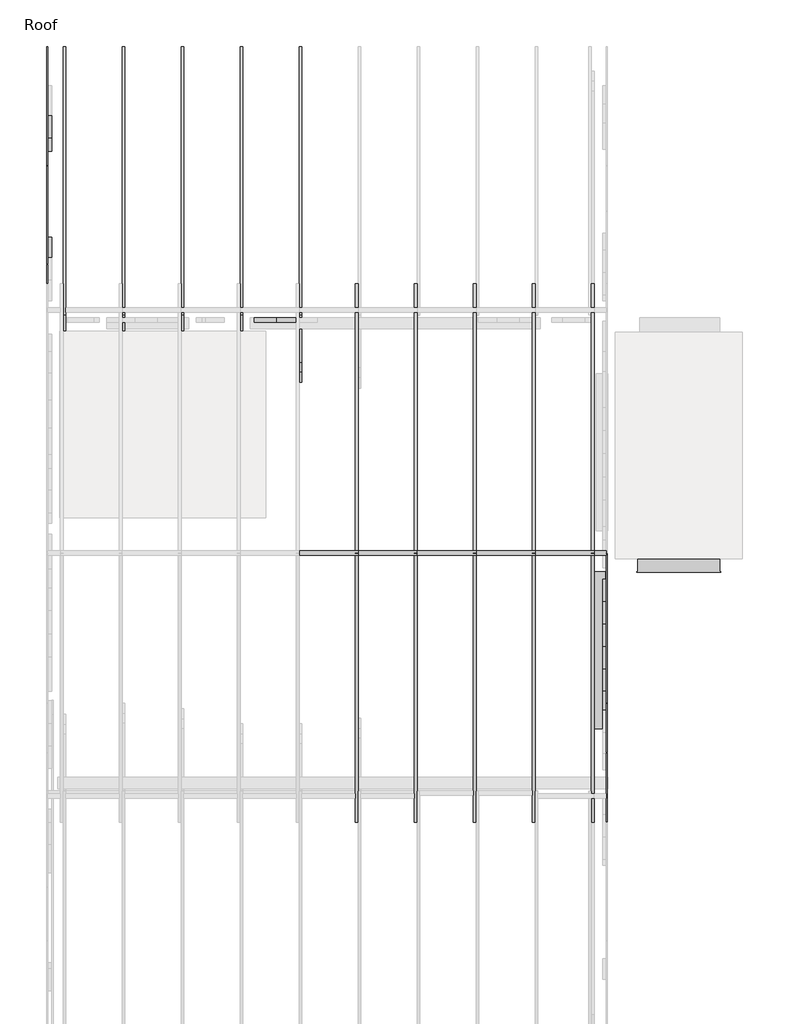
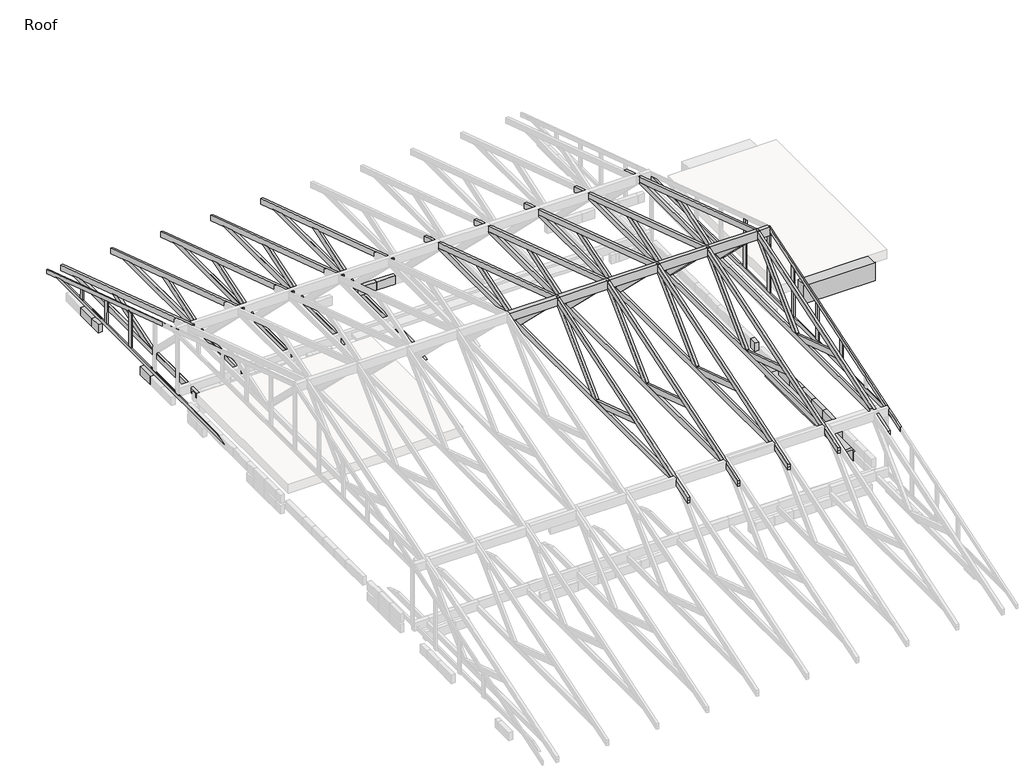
# One storey, part 4 of 5: 83 beams.
"""IFC4 building model written with IfcOpenShell, lengths in millimetres."""

from ifc_helpers import new_model, si_unit, frame, origin, place, context, project, spatial, polyline, outline, extrude, faceted_brep, transform, mapped, element, save
from components import beam_3d1db731, beam_175f67f2, beam_d3007124, beam_de9683ee, beam_a02e4526, beam_1caa885b, beam_21fbbdfc, dimension_lumber_2x8_b9bcc632, experttrusspart_2_x_4_5d1fd198, experttrusspart_2_x_4_7bcd8695, experttrusspart_2_x_4_906307f6, beam_a2527db5, beam_34389604, beam_5d155f78, beam_9d6aa0d6, beam_a4d90c35, beam_871d04bb, beam_51b55d0f, beam_ea55bc13

model = new_model("IFC4")

# Units and contexts
model_context = context("Model", 3, world=origin())
ifc_project = project(units=[si_unit("LENGTHUNIT", "METRE", prefix="MILLI")], contexts=[model_context])

# Site, building, storey
site = spatial("IfcSite", under=ifc_project)
building = spatial("IfcBuilding", under=site)
storey = spatial("IfcBuildingStorey", under=building, Name="Roof", Elevation=4267.2)

# Beams
placement = place(None, origin())
element("IfcBeam", 1, ObjectType="BraceBeam : 1\" x 3\"", at=placement, inside=storey, context=model_context, shape_type="Brep", body=[
    faceted_brep([(-11513.8040766, -15078.6302742, 2347.4378096), (-11513.8040766, -18729.8906497, 3539.1686266), (-11532.8540766, -18729.8906497, 3539.1686266), (-11532.8540766, -15078.6302742, 2347.4378096), (-11532.8540766, -15078.6302742, 2380.8361793), (-11532.8540766, -18729.8906497, 3572.5669964), (-11532.8540766, -18729.8906497, 3605.9653661), (-11532.8540766, -15078.6302742, 2414.2345491), (-11513.8040766, -18729.8906497, 3605.9653661), (-11513.8040766, -15078.6302742, 2414.2345491), (-11513.8040766, -15078.6302742, 2380.8361793), (-11513.8040766, -18729.8906497, 3572.5669964)], [[[0, 1, 2, 3]], [[4, 3, 2, 5, 6, 7]], [[7, 6, 8, 9]], [[10, 9, 8, 11, 1, 0]], [[9, 10, 0, 3, 4, 7]], [[6, 5, 2, 1, 11, 8]]]),
])
element("IfcBeam", 2, ObjectType="BraceBeam : 1\" x 3\"", at=placement, inside=storey, context=model_context, shape_type="Brep", body=[
    faceted_brep([(-11513.8040766, -15331.9224123, 2438.4), (-11513.8040766, -20010.7211148, 2438.4), (-11532.8540766, -20010.7211148, 2438.4), (-11532.8540766, -15331.9224123, 2438.4), (-11532.8540766, -15429.199008, 2470.15), (-11532.8540766, -19913.4445191, 2470.15), (-11532.8540766, -19816.1679233, 2501.9), (-11532.8540766, -15526.4756038, 2501.9), (-11513.8040766, -19816.1679233, 2501.9), (-11513.8040766, -15526.4756038, 2501.9), (-11513.8040766, -15429.199008, 2470.15), (-11513.8040766, -19913.4445191, 2470.15)], [[[0, 1, 2, 3]], [[4, 3, 2, 5, 6, 7]], [[7, 6, 8, 9]], [[10, 9, 8, 11, 1, 0]], [[9, 10, 0, 3, 4, 7]], [[6, 5, 2, 1, 11, 8]]]),
    faceted_brep([(-11513.8040766, -15331.9224123, 2438.4), (-11513.8040766, -18760.0431336, 2438.4), (-11532.8540766, -18760.0431336, 2438.4), (-11532.8540766, -15331.9224123, 2438.4), (-11513.8040766, -15429.199008, 2470.15), (-11513.8040766, -15526.4756038, 2501.9), (-11513.8040766, -18760.0431336, 2501.9), (-11532.8540766, -15429.199008, 2470.15), (-11532.8540766, -18760.0431336, 2501.9), (-11532.8540766, -15526.4756038, 2501.9)], [[[0, 1, 2, 3]], [[4, 5, 6, 1, 0]], [[7, 3, 2, 8, 9]], [[5, 4, 0, 3, 7, 9]], [[9, 8, 6, 5]], [[2, 1, 6, 8]]]),
])
element("IfcBeam", 3, ObjectType="BraceBeam : 1\" x 3\"", at=placement, inside=storey, context=model_context, shape_type="Brep", body=[
    faceted_brep([(-3931.9040766, -25617.9763369, 3399.7852354), (-3931.9040766, -21960.3763369, 4593.5852354), (-3912.8540766, -21960.3763369, 4593.5852354), (-3912.8540766, -25617.9763369, 3399.7852354), (-3912.8540766, -25617.9763369, 3433.1836052), (-3912.8540766, -21960.3763369, 4626.9836052), (-3912.8540766, -21960.3763369, 4660.381975), (-3912.8540766, -25617.9763369, 3466.581975), (-3931.9040766, -21960.3763369, 4660.381975), (-3931.9040766, -25617.9763369, 3466.581975), (-3931.9040766, -25617.9763369, 3433.1836052), (-3931.9040766, -21960.3763369, 4626.9836052)], [[[0, 1, 2, 3]], [[4, 3, 2, 5, 6, 7]], [[7, 6, 8, 9]], [[10, 9, 8, 11, 1, 0]], [[9, 10, 0, 3, 4, 7]], [[6, 5, 2, 1, 11, 8]]]),
])
element("IfcBeam", 4, ObjectType="BraceBeam : 1\" x 3\"", at=placement, inside=storey, context=model_context, shape_type="Brep", body=[
    faceted_brep([(-3931.9040766, -25364.6841988, 3482.456975), (-3931.9040766, -18556.068475, 3482.456975), (-3912.8540766, -18556.068475, 3482.456975), (-3912.8540766, -25364.6841988, 3482.456975), (-3912.8540766, -25267.4076031, 3514.206975), (-3912.8540766, -18653.3450708, 3514.206975), (-3912.8540766, -18750.6216665, 3545.956975), (-3912.8540766, -25170.1310073, 3545.956975), (-3931.9040766, -18750.6216665, 3545.956975), (-3931.9040766, -25170.1310073, 3545.956975), (-3931.9040766, -25267.4076031, 3514.206975), (-3931.9040766, -18653.3450708, 3514.206975)], [[[0, 1, 2, 3]], [[4, 3, 2, 5, 6, 7]], [[7, 6, 8, 9]], [[10, 9, 8, 11, 1, 0]], [[9, 10, 0, 3, 4, 7]], [[6, 5, 2, 1, 11, 8]]]),
])
beam_shape = beam_3d1db731(model_context)
element("IfcBeam", 5, ObjectType="BraceBeam : 1\" x 3\"", at=placement, inside=storey, context=model_context, shape_type="MappedRepresentation", body=[
    mapped(beam_shape, transform((-3922.3790766, -22627.5788952, 3962.3751938), x_axis=(0.0, 0.009073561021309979, 0.9999588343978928), y_axis=(-1.0, 0.0, 0.0), z_axis=(0.0, -0.9999588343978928, 0.009073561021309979))),
])
element("IfcBeam", 6, ObjectType="BraceBeam : 1\" x 3\"", at=placement, inside=storey, context=model_context, shape_type="MappedRepresentation", body=[
    mapped(beam_shape, transform((-3922.3790766, -21293.1737787, 3962.3751938), x_axis=(0.0, -0.009073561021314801, 0.9999588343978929), y_axis=(1.0, 0.0, 0.0), z_axis=(0.0, 0.9999588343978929, 0.009073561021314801))),
])
beam_2_shape = beam_175f67f2(model_context)
element("IfcBeam", 7, ObjectType="BraceBeam : 1\" x 3\"", at=placement, inside=storey, context=model_context, shape_type="MappedRepresentation", body=[
    mapped(beam_2_shape, transform((-3922.3790766, -23299.7521017, 3852.5327331), x_axis=(0.0, 0.009347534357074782, 0.9999563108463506), y_axis=(-1.0, 0.0, 0.0), z_axis=(0.0, -0.9999563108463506, 0.009347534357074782))),
])
beam_3_shape = beam_d3007124(model_context)
element("IfcBeam", 8, ObjectType="BraceBeam : 1\" x 3\"", at=placement, inside=storey, context=model_context, shape_type="MappedRepresentation", body=[
    mapped(beam_3_shape, transform((-3922.3790766, -23971.9253083, 3742.6902724), x_axis=(0.0, 0.009884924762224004, 0.9999511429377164), y_axis=(-1.0, 0.0, 0.0), z_axis=(0.0, -0.9999511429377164, 0.009884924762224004))),
])
beam_4_shape = beam_de9683ee(model_context)
element("IfcBeam", 9, ObjectType="BraceBeam : 1\" x 3\"", at=placement, inside=storey, context=model_context, shape_type="MappedRepresentation", body=[
    mapped(beam_4_shape, transform((-11523.3290766, -17393.6846971, 2803.2959412), x_axis=(0.0, 2.1499352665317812e-05, 0.999999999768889), y_axis=(-1.0, -1.5118550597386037e-10, 0.0), z_axis=(1.5118550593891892e-10, -0.999999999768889, 2.1499352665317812e-05))),
])
beam_5_shape = beam_a02e4526(model_context)
element("IfcBeam", 10, ObjectType="BraceBeam : 1\" x 3\"", at=placement, inside=storey, context=model_context, shape_type="MappedRepresentation", body=[
    mapped(beam_5_shape, transform((-11523.3290766, -16724.6813027, 2694.488072), x_axis=(0.0, -0.010067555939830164, 0.9999493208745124), y_axis=(1.0, 0.0, 0.0), z_axis=(0.0, 0.9999493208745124, 0.010067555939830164))),
])
beam_6_shape = beam_1caa885b(model_context)
element("IfcBeam", 11, ObjectType="BraceBeam : 1\" x 3\"", at=placement, inside=storey, context=model_context, shape_type="MappedRepresentation", body=[
    mapped(beam_6_shape, transform((-11523.3290766, -16052.5080961, 2584.6456114), x_axis=(0.0, -0.011830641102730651, 0.9999300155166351), y_axis=(1.0, 0.0, 0.0), z_axis=(0.0, 0.9999300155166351, 0.011830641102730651))),
])
beam_7_shape = beam_21fbbdfc(model_context)
element("IfcBeam", 12, ObjectType="BraceBeam : 1\" x 3\"", at=placement, inside=storey, context=model_context, shape_type="MappedRepresentation", body=[
    mapped(beam_7_shape, transform((-3922.3790766, -21959.8191245, 4103.1697536), x_axis=(0.0, -0.000999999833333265, 0.9999995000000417), y_axis=(1.0, -1.4638300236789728e-12, 0.0), z_axis=(1.463829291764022e-12, 0.9999995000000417, 0.0009999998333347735))),
])
element("IfcBeam", 13, ObjectType="Concrete-Rectangular Beam : 12 x 8", at=placement, inside=storey, context=model_context, shape_type="SweptSolid", body=[
    extrude(outline(polyline([(-2371.10478, -22219.1384775), (-3514.10478, -22219.1384775), (-3514.10478, -22212.7884775), (-3502.0090766, -22212.7884775), (-3502.0090766, -22015.9384775), (-2385.6790766, -22015.9384775), (-2385.6790766, -22212.7884775), (-2371.10478, -22212.7884775), (-2371.10478, -22219.1384775)])), frame((0.0, 0.0, 3352.8), z_axis=(0.0, 0.0, 1.0), x_axis=(1.0, 0.0, 0.0)), (0.0, 0.0, 1.0), 304.8),
])
dimension_lumber_2x8_shape = dimension_lumber_2x8_b9bcc632(model_context)
element("IfcBeam", 14, ObjectType="Dimension Lumber : 2x8", at=placement, inside=storey, context=model_context, shape_type="MappedRepresentation", body=[
    mapped(dimension_lumber_2x8_shape, transform((-3935.0790766, -23256.1525987, 2235.2), x_axis=(0.0, -1.0, 0.0), y_axis=(1.0, 0.0, 0.0), z_axis=(0.0, 0.0, 1.0))),
])
element("IfcBeam", 15, ObjectType="ExpertTrussPart : 2 x 4", at=placement, inside=storey, context=model_context, shape_type="SweptSolid", body=[
    extrude(outline(polyline([(-21793.4464104, 4512.3824664), (-20848.8530293, 3587.468114), (-20850.5374103, 3571.356975), (-20959.4672099, 3571.356975), (-21960.3763369, 4551.4138285), (-21960.3763369, 4566.8665396), (-21793.4464104, 4512.3824664)])), frame((-7337.8324099, 0.0, 0.0), z_axis=(1.0, 0.0, 0.0), x_axis=(0.0, 1.0, 0.0)), (0.0, 0.0, 1.0), 38.1),
])
element("IfcBeam", 16, ObjectType="ExpertTrussPart : 2 x 4", at=placement, inside=storey, context=model_context, shape_type="SweptSolid", body=[
    extrude(outline(polyline([(-19883.9561718, 3889.1460691), (-19812.3273277, 3865.7672102), (-19740.6984836, 3842.3883514), (-20571.0924881, 3571.356975), (-20850.5374103, 3571.356975), (-20850.2876203, 3573.7462213), (-19883.9561718, 3889.1460691)])), frame((-7337.8324099, 0.0, 0.0), z_axis=(1.0, 0.0, 0.0), x_axis=(0.0, 1.0, 0.0)), (0.0, 0.0, 1.0), 38.1),
])
element("IfcBeam", 17, ObjectType="ExpertTrussPart : 2 x 4", at=placement, inside=storey, context=model_context, shape_type="SweptSolid", body=[
    extrude(outline(polyline([(-22127.3062634, 4512.3824664), (-21960.3763369, 4566.8665396), (-21960.3763369, 4551.4138285), (-22961.2854639, 3571.356975), (-23070.2152636, 3571.356975), (-23071.8996445, 3587.468114), (-22127.3062634, 4512.3824664)])), frame((-7337.8324099, 0.0, 0.0), z_axis=(1.0, 0.0, 0.0), x_axis=(0.0, 1.0, 0.0)), (0.0, 0.0, 1.0), 38.1),
])
element("IfcBeam", 18, ObjectType="ExpertTrussPart : 2 x 4", at=placement, inside=storey, context=model_context, shape_type="SweptSolid", body=[
    extrude(outline(polyline([(-24036.796502, 3889.1460691), (-23070.4650535, 3573.7462213), (-23070.2152636, 3571.356975), (-23349.6601858, 3571.356975), (-24180.0541902, 3842.3883514), (-24108.4253461, 3865.7672102), (-24036.796502, 3889.1460691)])), frame((-7337.8324099, 0.0, 0.0), z_axis=(1.0, 0.0, 0.0), x_axis=(0.0, 1.0, 0.0)), (0.0, 0.0, 1.0), 38.1),
])
element("IfcBeam", 19, ObjectType="ExpertTrussPart : 2 x 4", at=placement, inside=storey, context=model_context, shape_type="SweptSolid", body=[
    extrude(outline(polyline([(-21793.4464104, 4512.3824664), (-20848.8530293, 3587.468114), (-20850.5374103, 3571.356975), (-20959.4672099, 3571.356975), (-21960.3763369, 4551.4138285), (-21960.3763369, 4566.8665396), (-21793.4464104, 4512.3824664)])), frame((-6536.0390766, 0.0, 0.0), z_axis=(1.0, 0.0, 0.0), x_axis=(0.0, 1.0, 0.0)), (0.0, 0.0, 1.0), 38.1),
])
element("IfcBeam", 20, ObjectType="ExpertTrussPart : 2 x 4", at=placement, inside=storey, context=model_context, shape_type="SweptSolid", body=[
    extrude(outline(polyline([(-19883.9561718, 3889.1460691), (-19812.3273277, 3865.7672102), (-19740.6984836, 3842.3883514), (-20571.0924881, 3571.356975), (-20850.5374103, 3571.356975), (-20850.2876203, 3573.7462213), (-19883.9561718, 3889.1460691)])), frame((-6536.0390766, 0.0, 0.0), z_axis=(1.0, 0.0, 0.0), x_axis=(0.0, 1.0, 0.0)), (0.0, 0.0, 1.0), 38.1),
])
element("IfcBeam", 21, ObjectType="ExpertTrussPart : 2 x 4", at=placement, inside=storey, context=model_context, shape_type="SweptSolid", body=[
    extrude(outline(polyline([(-22127.3062634, 4512.3824664), (-21960.3763369, 4566.8665396), (-21960.3763369, 4551.4138285), (-22961.2854639, 3571.356975), (-23070.2152636, 3571.356975), (-23071.8996445, 3587.468114), (-22127.3062634, 4512.3824664)])), frame((-6536.0390766, 0.0, 0.0), z_axis=(1.0, 0.0, 0.0), x_axis=(0.0, 1.0, 0.0)), (0.0, 0.0, 1.0), 38.1),
])
element("IfcBeam", 22, ObjectType="ExpertTrussPart : 2 x 4", at=placement, inside=storey, context=model_context, shape_type="SweptSolid", body=[
    extrude(outline(polyline([(-24036.796502, 3889.1460691), (-23070.4650535, 3573.7462213), (-23070.2152636, 3571.356975), (-23349.6601858, 3571.356975), (-24180.0541902, 3842.3883514), (-24108.4253461, 3865.7672102), (-24036.796502, 3889.1460691)])), frame((-6536.0390766, 0.0, 0.0), z_axis=(1.0, 0.0, 0.0), x_axis=(0.0, 1.0, 0.0)), (0.0, 0.0, 1.0), 38.1),
])
element("IfcBeam", 23, ObjectType="ExpertTrussPart : 2 x 4", at=placement, inside=storey, context=model_context, shape_type="SweptSolid", body=[
    extrude(outline(polyline([(-21960.3763369, 4660.381975), (-21960.3763369, 4613.6242573), (-21960.3763369, 4566.8665396), (-25617.9763369, 3373.0665396), (-25617.9763369, 3419.8242573), (-25617.9763369, 3466.581975), (-21960.3763369, 4660.381975)])), frame((-5734.2457433, 0.0, 0.0), z_axis=(1.0, 0.0, 0.0), x_axis=(0.0, 1.0, 0.0)), (0.0, 0.0, 1.0), 38.1),
])
element("IfcBeam", 24, ObjectType="ExpertTrussPart : 2 x 4", at=placement, inside=storey, context=model_context, shape_type="SweptSolid", body=[
    extrude(outline(polyline([(-21793.4464104, 4512.3824664), (-20848.8530293, 3587.468114), (-20850.5374103, 3571.356975), (-20959.4672099, 3571.356975), (-21960.3763369, 4551.4138285), (-21960.3763369, 4566.8665396), (-21793.4464104, 4512.3824664)])), frame((-5734.2457433, 0.0, 0.0), z_axis=(1.0, 0.0, 0.0), x_axis=(0.0, 1.0, 0.0)), (0.0, 0.0, 1.0), 38.1),
])
element("IfcBeam", 25, ObjectType="ExpertTrussPart : 2 x 4", at=placement, inside=storey, context=model_context, shape_type="SweptSolid", body=[
    extrude(outline(polyline([(-19883.9561718, 3889.1460691), (-19812.3273277, 3865.7672102), (-19740.6984836, 3842.3883514), (-20571.0924881, 3571.356975), (-20850.5374103, 3571.356975), (-20850.2876203, 3573.7462213), (-19883.9561718, 3889.1460691)])), frame((-5734.2457433, 0.0, 0.0), z_axis=(1.0, 0.0, 0.0), x_axis=(0.0, 1.0, 0.0)), (0.0, 0.0, 1.0), 38.1),
])
element("IfcBeam", 26, ObjectType="ExpertTrussPart : 2 x 4", at=placement, inside=storey, context=model_context, shape_type="SweptSolid", body=[
    extrude(outline(polyline([(-22127.3062634, 4512.3824664), (-21960.3763369, 4566.8665396), (-21960.3763369, 4551.4138285), (-22961.2854639, 3571.356975), (-23070.2152636, 3571.356975), (-23071.8996445, 3587.468114), (-22127.3062634, 4512.3824664)])), frame((-5734.2457433, 0.0, 0.0), z_axis=(1.0, 0.0, 0.0), x_axis=(0.0, 1.0, 0.0)), (0.0, 0.0, 1.0), 38.1),
])
element("IfcBeam", 27, ObjectType="ExpertTrussPart : 2 x 4", at=placement, inside=storey, context=model_context, shape_type="SweptSolid", body=[
    extrude(outline(polyline([(-24036.796502, 3889.1460691), (-23070.4650535, 3573.7462213), (-23070.2152636, 3571.356975), (-23349.6601858, 3571.356975), (-24180.0541902, 3842.3883514), (-24108.4253461, 3865.7672102), (-24036.796502, 3889.1460691)])), frame((-5734.2457433, 0.0, 0.0), z_axis=(1.0, 0.0, 0.0), x_axis=(0.0, 1.0, 0.0)), (0.0, 0.0, 1.0), 38.1),
])
element("IfcBeam", 28, ObjectType="ExpertTrussPart : 2 x 4", at=placement, inside=storey, context=model_context, shape_type="SweptSolid", body=[
    extrude(outline(polyline([(-21793.4464104, 4512.3824664), (-20848.8530293, 3587.468114), (-20850.5374103, 3571.356975), (-20959.4672099, 3571.356975), (-21960.3763369, 4551.4138285), (-21960.3763369, 4566.8665396), (-21793.4464104, 4512.3824664)])), frame((-4932.4524099, 0.0, 0.0), z_axis=(1.0, 0.0, 0.0), x_axis=(0.0, 1.0, 0.0)), (0.0, 0.0, 1.0), 38.1),
])
element("IfcBeam", 29, ObjectType="ExpertTrussPart : 2 x 4", at=placement, inside=storey, context=model_context, shape_type="SweptSolid", body=[
    extrude(outline(polyline([(-19883.9561718, 3889.1460691), (-19812.3273277, 3865.7672102), (-19740.6984836, 3842.3883514), (-20571.0924881, 3571.356975), (-20850.5374103, 3571.356975), (-20850.2876203, 3573.7462213), (-19883.9561718, 3889.1460691)])), frame((-4932.4524099, 0.0, 0.0), z_axis=(1.0, 0.0, 0.0), x_axis=(0.0, 1.0, 0.0)), (0.0, 0.0, 1.0), 38.1),
])
element("IfcBeam", 30, ObjectType="ExpertTrussPart : 2 x 4", at=placement, inside=storey, context=model_context, shape_type="SweptSolid", body=[
    extrude(outline(polyline([(-22127.3062634, 4512.3824664), (-21960.3763369, 4566.8665396), (-21960.3763369, 4551.4138285), (-22961.2854639, 3571.356975), (-23070.2152636, 3571.356975), (-23071.8996445, 3587.468114), (-22127.3062634, 4512.3824664)])), frame((-4932.4524099, 0.0, 0.0), z_axis=(1.0, 0.0, 0.0), x_axis=(0.0, 1.0, 0.0)), (0.0, 0.0, 1.0), 38.1),
])
element("IfcBeam", 31, ObjectType="ExpertTrussPart : 2 x 4", at=placement, inside=storey, context=model_context, shape_type="SweptSolid", body=[
    extrude(outline(polyline([(-24036.796502, 3889.1460691), (-23070.4650535, 3573.7462213), (-23070.2152636, 3571.356975), (-23349.6601858, 3571.356975), (-24180.0541902, 3842.3883514), (-24108.4253461, 3865.7672102), (-24036.796502, 3889.1460691)])), frame((-4932.4524099, 0.0, 0.0), z_axis=(1.0, 0.0, 0.0), x_axis=(0.0, 1.0, 0.0)), (0.0, 0.0, 1.0), 38.1),
])
element("IfcBeam", 32, ObjectType="ExpertTrussPart : 2 x 4", at=placement, inside=storey, context=model_context, shape_type="SweptSolid", body=[
    extrude(outline(polyline([(-19496.0685721, 2527.3), (-15686.1584165, 2527.3), (-15549.9711824, 2482.85), (-15413.7839484, 2438.4), (-19768.4430401, 2438.4), (-19632.2558061, 2482.85), (-19496.0685721, 2527.3)])), frame((-11308.6990766, 0.0, 0.0), z_axis=(1.0, 0.0, 0.0), x_axis=(0.0, 1.0, 0.0)), (0.0, 0.0, 1.0), 38.1),
    extrude(outline(polyline([(-18760.0431336, 2527.3), (-15686.1584165, 2527.3), (-15549.9711824, 2482.85), (-15413.7839484, 2438.4), (-18760.0431336, 2438.4), (-18760.0431336, 2527.3)])), frame((-11308.6990766, 0.0, 0.0), z_axis=(1.0, 0.0, 0.0), x_axis=(0.0, 1.0, 0.0)), (0.0, 0.0, 1.0), 38.1),
])
element("IfcBeam", 33, ObjectType="ExpertTrussPart : 2 x 4", at=placement, inside=storey, context=model_context, shape_type="SweptSolid", body=[
    extrude(outline(polyline([(-16659.8101091, 2845.0890941), (-16588.181265, 2821.7102353), (-16516.5524209, 2798.3313765), (-17346.9464253, 2527.3), (-17626.3913475, 2527.3), (-17626.1415576, 2529.6892463), (-16659.8101091, 2845.0890941)])), frame((-11308.6990766, 0.0, 0.0), z_axis=(1.0, 0.0, 0.0), x_axis=(0.0, 1.0, 0.0)), (0.0, 0.0, 1.0), 38.1),
])
element("IfcBeam", 34, ObjectType="ExpertTrussPart : 2 x 4", at=placement, inside=storey, context=model_context, shape_type="SweptSolid", body=[
    extrude(outline(polyline([(-19648.4685721, 2527.3), (-15686.1584165, 2527.3), (-15549.9711824, 2482.85), (-15413.7839484, 2438.4), (-19920.8430401, 2438.4), (-19784.6558061, 2482.85), (-19648.4685721, 2527.3)])), frame((-10506.9057433, 0.0, 0.0), z_axis=(1.0, 0.0, 0.0), x_axis=(0.0, 1.0, 0.0)), (0.0, 0.0, 1.0), 38.1),
    extrude(outline(polyline([(-18760.0431336, 2527.3), (-15686.1584165, 2527.3), (-15549.9711824, 2482.85), (-15413.7839484, 2438.4), (-18760.0431336, 2438.4), (-18760.0431336, 2527.3)])), frame((-10506.9057433, 0.0, 0.0), z_axis=(1.0, 0.0, 0.0), x_axis=(0.0, 1.0, 0.0)), (0.0, 0.0, 1.0), 38.1),
])
element("IfcBeam", 35, ObjectType="ExpertTrussPart : 2 x 4", at=placement, inside=storey, context=model_context, shape_type="SweptSolid", body=[
    extrude(outline(polyline([(-16659.8101091, 2845.0890941), (-16588.181265, 2821.7102353), (-16516.5524209, 2798.3313765), (-17346.9464253, 2527.3), (-17626.3913475, 2527.3), (-17626.1415576, 2529.6892463), (-16659.8101091, 2845.0890941)])), frame((-10506.9057433, 0.0, 0.0), z_axis=(1.0, 0.0, 0.0), x_axis=(0.0, 1.0, 0.0)), (0.0, 0.0, 1.0), 38.1),
])
element("IfcBeam", 36, ObjectType="ExpertTrussPart : 2 x 4", at=placement, inside=storey, context=model_context, shape_type="SweptSolid", body=[
    extrude(outline(polyline([(-19572.2685721, 2527.3), (-15686.1584165, 2527.3), (-15549.9711824, 2482.85), (-15413.7839484, 2438.4), (-19844.6430401, 2438.4), (-19708.4558061, 2482.85), (-19572.2685721, 2527.3)])), frame((-9705.1124099, 0.0, 0.0), z_axis=(1.0, 0.0, 0.0), x_axis=(0.0, 1.0, 0.0)), (0.0, 0.0, 1.0), 38.1),
    extrude(outline(polyline([(-18760.0431336, 2527.3), (-15686.1584165, 2527.3), (-15549.9711824, 2482.85), (-15413.7839484, 2438.4), (-18760.0431336, 2438.4), (-18760.0431336, 2527.3)])), frame((-9705.1124099, 0.0, 0.0), z_axis=(1.0, 0.0, 0.0), x_axis=(0.0, 1.0, 0.0)), (0.0, 0.0, 1.0), 38.1),
])
element("IfcBeam", 37, ObjectType="ExpertTrussPart : 2 x 4", at=placement, inside=storey, context=model_context, shape_type="SweptSolid", body=[
    extrude(outline(polyline([(-16659.8101091, 2845.0890941), (-16588.181265, 2821.7102353), (-16516.5524209, 2798.3313765), (-17346.9464253, 2527.3), (-17626.3913475, 2527.3), (-17626.1415576, 2529.6892463), (-16659.8101091, 2845.0890941)])), frame((-9705.1124099, 0.0, 0.0), z_axis=(1.0, 0.0, 0.0), x_axis=(0.0, 1.0, 0.0)), (0.0, 0.0, 1.0), 38.1),
])
element("IfcBeam", 38, ObjectType="ExpertTrussPart : 2 x 4", at=placement, inside=storey, context=model_context, shape_type="SweptSolid", body=[
    extrude(outline(polyline([(-16659.8101091, 2845.0890941), (-16588.181265, 2821.7102353), (-16516.5524209, 2798.3313765), (-17346.9464253, 2527.3), (-17626.3913475, 2527.3), (-17626.1415576, 2529.6892463), (-16659.8101091, 2845.0890941)])), frame((-8903.3190766, 0.0, 0.0), z_axis=(1.0, 0.0, 0.0), x_axis=(0.0, 1.0, 0.0)), (0.0, 0.0, 1.0), 38.1),
])
element("IfcBeam", 39, ObjectType="ExpertTrussPart : 2 x 4", at=placement, inside=storey, context=model_context, shape_type="SweptSolid", body=[
    extrude(outline(polyline([(-19369.0685721, 2527.3), (-15686.1584165, 2527.3), (-15549.9711824, 2482.85), (-15413.7839484, 2438.4), (-19641.4430401, 2438.4), (-19505.2558061, 2482.85), (-19369.0685721, 2527.3)])), frame((-8101.5257433, 0.0, 0.0), z_axis=(1.0, 0.0, 0.0), x_axis=(0.0, 1.0, 0.0)), (0.0, 0.0, 1.0), 38.1),
    extrude(outline(polyline([(-18760.0431336, 2527.3), (-15686.1584165, 2527.3), (-15549.9711824, 2482.85), (-15413.7839484, 2438.4), (-18760.0431336, 2438.4), (-18760.0431336, 2527.3)])), frame((-8101.5257433, 0.0, 0.0), z_axis=(1.0, 0.0, 0.0), x_axis=(0.0, 1.0, 0.0)), (0.0, 0.0, 1.0), 38.1),
])
element("IfcBeam", 40, ObjectType="ExpertTrussPart : 2 x 4", at=placement, inside=storey, context=model_context, shape_type="SweptSolid", body=[
    extrude(outline(polyline([(-16659.8101091, 2845.0890941), (-16588.181265, 2821.7102353), (-16516.5524209, 2798.3313765), (-17346.9464253, 2527.3), (-17626.3913475, 2527.3), (-17626.1415576, 2529.6892463), (-16659.8101091, 2845.0890941)])), frame((-8101.5257433, 0.0, 0.0), z_axis=(1.0, 0.0, 0.0), x_axis=(0.0, 1.0, 0.0)), (0.0, 0.0, 1.0), 38.1),
])
element("IfcBeam", 41, ObjectType="ExpertTrussPart : 2 x 4", at=placement, inside=storey, context=model_context, shape_type="SweptSolid", body=[
    extrude(outline(polyline([(-19369.0685721, 2527.3), (-15686.1584165, 2527.3), (-15549.9711824, 2482.85), (-15413.7839484, 2438.4), (-19641.4430401, 2438.4), (-19505.2558061, 2482.85), (-19369.0685721, 2527.3)])), frame((-8903.3190766, 0.0, 0.0), z_axis=(1.0, 0.0, 0.0), x_axis=(0.0, 1.0, 0.0)), (0.0, 0.0, 1.0), 38.1),
    extrude(outline(polyline([(-18760.0431336, 2527.3), (-15686.1584165, 2527.3), (-15549.9711824, 2482.85), (-15413.7839484, 2438.4), (-18760.0431336, 2438.4), (-18760.0431336, 2527.3)])), frame((-8903.3190766, 0.0, 0.0), z_axis=(1.0, 0.0, 0.0), x_axis=(0.0, 1.0, 0.0)), (0.0, 0.0, 1.0), 38.1),
])
element("IfcBeam", 42, ObjectType="ExpertTrussPart : 2 x 4", at=placement, inside=storey, context=model_context, shape_type="SweptSolid", body=[
    extrude(outline(polyline([(-21793.4464104, 4512.3824664), (-20848.8530293, 3587.468114), (-20850.5374103, 3571.356975), (-20959.4672099, 3571.356975), (-21960.3763369, 4551.4138285), (-21960.3763369, 4566.8665396), (-21793.4464104, 4512.3824664)])), frame((-4130.6590766, 0.0, 0.0), z_axis=(1.0, 0.0, 0.0), x_axis=(0.0, 1.0, 0.0)), (0.0, 0.0, 1.0), 38.1),
])
element("IfcBeam", 43, ObjectType="ExpertTrussPart : 2 x 4", at=placement, inside=storey, context=model_context, shape_type="SweptSolid", body=[
    extrude(outline(polyline([(-19883.9561718, 3889.1460691), (-19812.3273277, 3865.7672102), (-19740.6984836, 3842.3883514), (-20571.0924881, 3571.356975), (-20850.5374103, 3571.356975), (-20850.2876203, 3573.7462213), (-19883.9561718, 3889.1460691)])), frame((-4130.6590766, 0.0, 0.0), z_axis=(1.0, 0.0, 0.0), x_axis=(0.0, 1.0, 0.0)), (0.0, 0.0, 1.0), 38.1),
])
element("IfcBeam", 44, ObjectType="ExpertTrussPart : 2 x 4", at=placement, inside=storey, context=model_context, shape_type="SweptSolid", body=[
    extrude(outline(polyline([(-22127.3062634, 4512.3824664), (-21960.3763369, 4566.8665396), (-21960.3763369, 4551.4138285), (-22961.2854639, 3571.356975), (-23070.2152636, 3571.356975), (-23071.8996445, 3587.468114), (-22127.3062634, 4512.3824664)])), frame((-4130.6590766, 0.0, 0.0), z_axis=(1.0, 0.0, 0.0), x_axis=(0.0, 1.0, 0.0)), (0.0, 0.0, 1.0), 38.1),
])
element("IfcBeam", 45, ObjectType="ExpertTrussPart : 2 x 4", at=placement, inside=storey, context=model_context, shape_type="SweptSolid", body=[
    extrude(outline(polyline([(-24166.2622428, 3931.4022483), (-23070.4650535, 3573.7462213), (-23070.2152636, 3571.356975), (-23349.6601858, 3571.356975), (-24309.5199309, 3884.6445307), (-24237.8910869, 3908.0233895), (-24166.2622428, 3931.4022483)])), frame((-4130.6590766, 0.0, 0.0), z_axis=(1.0, 0.0, 0.0), x_axis=(0.0, 1.0, 0.0)), (0.0, 0.0, 1.0), 38.1),
])
experttrusspart_2_x_4_shape = experttrusspart_2_x_4_5d1fd198(model_context)
element("IfcBeam", 46, ObjectType="ExpertTrussPart : 2 x 4", at=placement, inside=storey, context=model_context, shape_type="MappedRepresentation", body=[
    mapped(experttrusspart_2_x_4_shape, transform((-7318.7824099, -21960.3763369, 3482.456975), x_axis=(0.0, -1.0, 0.0), y_axis=(1.0, 0.0, 0.0), z_axis=(0.0, 0.0, 1.0))),
])
element("IfcBeam", 47, ObjectType="ExpertTrussPart : 2 x 4", at=placement, inside=storey, context=model_context, shape_type="MappedRepresentation", body=[
    mapped(experttrusspart_2_x_4_shape, transform((-6516.9890766, -21960.3763369, 3482.456975), x_axis=(0.0, -1.0, 0.0), y_axis=(1.0, 0.0, 0.0), z_axis=(0.0, 0.0, 1.0))),
])
element("IfcBeam", 48, ObjectType="ExpertTrussPart : 2 x 4", at=placement, inside=storey, context=model_context, shape_type="MappedRepresentation", body=[
    mapped(experttrusspart_2_x_4_shape, transform((-5715.1957433, -21960.3763369, 3482.456975), x_axis=(0.0, -1.0, 0.0), y_axis=(1.0, 0.0, 0.0), z_axis=(0.0, 0.0, 1.0))),
])
element("IfcBeam", 49, ObjectType="ExpertTrussPart : 2 x 4", at=placement, inside=storey, context=model_context, shape_type="MappedRepresentation", body=[
    mapped(experttrusspart_2_x_4_shape, transform((-4913.4024099, -21960.3763369, 3482.456975), x_axis=(0.0, -1.0, 0.0), y_axis=(1.0, 0.0, 0.0), z_axis=(0.0, 0.0, 1.0))),
])
experttrusspart_2_x_4_2_shape = experttrusspart_2_x_4_7bcd8695(model_context)
element("IfcBeam", 50, ObjectType="ExpertTrussPart : 2 x 4", at=placement, inside=storey, context=model_context, shape_type="MappedRepresentation", body=[
    mapped(experttrusspart_2_x_4_2_shape, transform((-7318.7824099, -20145.3682843, 3974.468078), x_axis=(0.0, 0.950645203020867, -0.310280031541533), y_axis=(-1.0, 0.0, 0.0), z_axis=(0.0, 0.310280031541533, 0.950645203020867))),
])
element("IfcBeam", 51, ObjectType="ExpertTrussPart : 2 x 4", at=placement, inside=storey, context=model_context, shape_type="MappedRepresentation", body=[
    mapped(experttrusspart_2_x_4_2_shape, transform((-7318.7824099, -23775.3843895, 3974.468078), x_axis=(0.0, -0.9506452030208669, -0.310280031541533), y_axis=(1.0, 0.0, 0.0), z_axis=(0.0, -0.31028003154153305, 0.950645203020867))),
])
element("IfcBeam", 52, ObjectType="ExpertTrussPart : 2 x 4", at=placement, inside=storey, context=model_context, shape_type="MappedRepresentation", body=[
    mapped(experttrusspart_2_x_4_2_shape, transform((-6516.9890766, -20145.3682843, 3974.468078), x_axis=(0.0, 0.950645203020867, -0.31028003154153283), y_axis=(-1.0, 0.0, 0.0), z_axis=(0.0, 0.3102800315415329, 0.9506452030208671))),
])
element("IfcBeam", 53, ObjectType="ExpertTrussPart : 2 x 4", at=placement, inside=storey, context=model_context, shape_type="MappedRepresentation", body=[
    mapped(experttrusspart_2_x_4_2_shape, transform((-6516.9890766, -23775.3843895, 3974.468078), x_axis=(0.0, -0.9506452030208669, -0.310280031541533), y_axis=(1.0, 0.0, 0.0), z_axis=(0.0, -0.31028003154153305, 0.950645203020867))),
])
element("IfcBeam", 54, ObjectType="ExpertTrussPart : 2 x 4", at=placement, inside=storey, context=model_context, shape_type="MappedRepresentation", body=[
    mapped(experttrusspart_2_x_4_2_shape, transform((-5715.1957433, -20145.3682843, 3974.468078), x_axis=(0.0, 0.9506452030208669, -0.3102800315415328), y_axis=(-0.9999999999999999, 0.0, 0.0), z_axis=(0.0, 0.3102800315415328, 0.950645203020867))),
])
element("IfcBeam", 55, ObjectType="ExpertTrussPart : 2 x 4", at=placement, inside=storey, context=model_context, shape_type="MappedRepresentation", body=[
    mapped(experttrusspart_2_x_4_2_shape, transform((-4913.4024099, -20145.3682843, 3974.468078), x_axis=(0.0, 0.9506452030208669, -0.3102800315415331), y_axis=(-1.0, 0.0, 0.0), z_axis=(0.0, 0.3102800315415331, 0.9506452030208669))),
])
element("IfcBeam", 56, ObjectType="ExpertTrussPart : 2 x 4", at=placement, inside=storey, context=model_context, shape_type="MappedRepresentation", body=[
    mapped(experttrusspart_2_x_4_2_shape, transform((-4913.4024099, -23775.3843895, 3974.468078), x_axis=(0.0, -0.9506452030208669, -0.310280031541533), y_axis=(1.0, 0.0, 0.0), z_axis=(0.0, -0.31028003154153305, 0.950645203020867))),
])
experttrusspart_2_x_4_3_shape = experttrusspart_2_x_4_906307f6(model_context)
element("IfcBeam", 57, ObjectType="ExpertTrussPart : 2 x 4", at=placement, inside=storey, context=model_context, shape_type="MappedRepresentation", body=[
    mapped(experttrusspart_2_x_4_3_shape, transform((-11289.6490766, -16914.872089, 2920.0480394), x_axis=(0.0, 0.9506452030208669, -0.31028003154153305), y_axis=(-1.0, 0.0, 0.0), z_axis=(0.0, 0.31028003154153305, 0.9506452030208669))),
])
element("IfcBeam", 58, ObjectType="ExpertTrussPart : 2 x 4", at=placement, inside=storey, context=model_context, shape_type="MappedRepresentation", body=[
    mapped(experttrusspart_2_x_4_3_shape, transform((-10487.8557433, -16914.872089, 2920.0480394), x_axis=(0.0, 0.9506452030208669, -0.31028003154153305), y_axis=(-1.0, 0.0, 0.0), z_axis=(0.0, 0.31028003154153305, 0.9506452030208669))),
])
element("IfcBeam", 59, ObjectType="ExpertTrussPart : 2 x 4", at=placement, inside=storey, context=model_context, shape_type="MappedRepresentation", body=[
    mapped(experttrusspart_2_x_4_3_shape, transform((-9686.0624099, -16914.872089, 2920.0480394), x_axis=(0.0, 0.9506452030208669, -0.31028003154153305), y_axis=(-1.0, 0.0, 0.0), z_axis=(0.0, 0.31028003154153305, 0.9506452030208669))),
])
element("IfcBeam", 60, ObjectType="ExpertTrussPart : 2 x 4", at=placement, inside=storey, context=model_context, shape_type="MappedRepresentation", body=[
    mapped(experttrusspart_2_x_4_3_shape, transform((-8884.2690766, -16914.872089, 2920.0480394), x_axis=(0.0, 0.9506452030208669, -0.31028003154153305), y_axis=(-1.0, 0.0, 0.0), z_axis=(0.0, 0.31028003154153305, 0.9506452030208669))),
])
element("IfcBeam", 61, ObjectType="ExpertTrussPart : 2 x 4", at=placement, inside=storey, context=model_context, shape_type="MappedRepresentation", body=[
    mapped(experttrusspart_2_x_4_3_shape, transform((-8082.4757433, -16914.872089, 2920.0480394), x_axis=(0.0, 0.9506452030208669, -0.31028003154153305), y_axis=(-1.0, 0.0, 0.0), z_axis=(0.0, 0.31028003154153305, 0.9506452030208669))),
])
element("IfcBeam", 62, ObjectType="ExpertTrussPart : 2 x 4", at=placement, inside=storey, context=model_context, shape_type="MappedRepresentation", body=[
    mapped(experttrusspart_2_x_4_2_shape, transform((-4111.6090766, -20145.3682843, 3974.468078), x_axis=(0.0, 0.950645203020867, -0.3102800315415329), y_axis=(-1.0, 0.0, 0.0), z_axis=(0.0, 0.3102800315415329, 0.950645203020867))),
])
element("IfcBeam", 63, ObjectType="ExpertTrussPart : 2 x 4", at=placement, inside=storey, context=model_context, shape_type="MappedRepresentation", body=[
    mapped(experttrusspart_2_x_4_shape, transform((-4111.6090766, -21960.3763369, 3482.456975), x_axis=(0.0, -1.0, 0.0), y_axis=(1.0, 0.0, 0.0), z_axis=(0.0, 0.0, 1.0))),
])
element("IfcBeam", 64, ObjectType="ExpertTrussPart : 2 x 4", at=placement, inside=storey, context=model_context, shape_type="MappedRepresentation", body=[
    mapped(experttrusspart_2_x_4_2_shape, transform((-4111.6090766, -23775.3843895, 3974.468078), x_axis=(0.0, -0.950645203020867, -0.31028003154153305), y_axis=(1.0, 0.0, 0.0), z_axis=(0.0, -0.31028003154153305, 0.950645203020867))),
])
element("IfcBeam", 65, ObjectType="WallPlates : 6\" x 3\"", at=placement, inside=storey, context=model_context, shape_type="SweptSolid", body=[
    extrude(outline(polyline([(-8406.3257433, -18826.6513369), (-8406.3257433, -18763.1513369), (-8101.5257433, -18763.1513369), (-8101.5257433, -18826.6513369), (-8406.3257433, -18826.6513369)])), frame((0.0, 0.0, 3241.156975), z_axis=(0.0, 0.0, 1.0), x_axis=(1.0, 0.0, 0.0)), (0.0, 0.0, 1.0), 139.7),
    extrude(outline(polyline([(-8406.3257433, -18826.6513369), (-8406.3257433, -18763.1513369), (-8152.3257433, -18763.1513369), (-8152.3257433, -18826.6513369), (-8406.3257433, -18826.6513369)])), frame((0.0, 0.0, 3241.156975), z_axis=(0.0, 0.0, 1.0), x_axis=(1.0, 0.0, 0.0)), (0.0, 0.0, 1.0), 139.7),
])
element("IfcBeam", 66, ObjectType="WallPlates : 6\" x 3\"", at=placement, inside=storey, context=model_context, shape_type="SweptSolid", body=[
    extrude(outline(polyline([(-8711.1257433, -18826.6513369), (-8711.1257433, -18763.1513369), (-8406.3257433, -18763.1513369), (-8406.3257433, -18826.6513369), (-8711.1257433, -18826.6513369)])), frame((0.0, 0.0, 3241.156975), z_axis=(0.0, 0.0, 1.0), x_axis=(1.0, 0.0, 0.0)), (0.0, 0.0, 1.0), 139.7),
    extrude(outline(polyline([(-8711.1257433, -18826.6513369), (-8711.1257433, -18763.1513369), (-8457.1257433, -18763.1513369), (-8457.1257433, -18826.6513369), (-8711.1257433, -18826.6513369)])), frame((0.0, 0.0, 3241.156975), z_axis=(0.0, 0.0, 1.0), x_axis=(1.0, 0.0, 0.0)), (0.0, 0.0, 1.0), 139.7),
])
beam_8_shape = beam_a2527db5(model_context)
element("IfcBeam", 67, ObjectType="WallPlates : 6\" x 3\"", at=placement, inside=storey, context=model_context, shape_type="MappedRepresentation", body=[
    mapped(beam_8_shape, transform((-4493.4557433, -21960.3763369, 4590.531975), x_axis=(-1.0000000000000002, 0.0, 0.0), y_axis=(0.0, 0.0, -1.0000000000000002), z_axis=(0.0, -1.0000000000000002, 0.0))),
])
element("IfcBeam", 68, ObjectType="WallPlates : 6\" x 3\"", at=placement, inside=storey, context=model_context, shape_type="MappedRepresentation", body=[
    mapped(beam_8_shape, transform((-5295.2490766, -21960.3763369, 4590.531975), x_axis=(-1.0000000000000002, 0.0, 0.0), y_axis=(0.0, 0.0, -1.0000000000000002), z_axis=(0.0, -1.0000000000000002, 0.0))),
])
element("IfcBeam", 69, ObjectType="WallPlates : 6\" x 3\"", at=placement, inside=storey, context=model_context, shape_type="MappedRepresentation", body=[
    mapped(beam_8_shape, transform((-6097.0424099, -21960.3763369, 4590.531975), x_axis=(-1.0000000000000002, 0.0, 0.0), y_axis=(0.0, 0.0, -1.0000000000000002), z_axis=(0.0, -1.0000000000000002, 0.0))),
])
element("IfcBeam", 70, ObjectType="WallPlates : 6\" x 3\"", at=placement, inside=storey, context=model_context, shape_type="MappedRepresentation", body=[
    mapped(beam_8_shape, transform((-6898.8357433, -21960.3763369, 4590.531975), x_axis=(-1.0000000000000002, 0.0, 0.0), y_axis=(0.0, 0.0, -1.0000000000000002), z_axis=(0.0, -1.0000000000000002, 0.0))),
])
element("IfcBeam", 71, ObjectType="WallPlates : 6\" x 3\"", at=placement, inside=storey, context=model_context, shape_type="MappedRepresentation", body=[
    mapped(beam_8_shape, transform((-7700.6290766, -21960.3763369, 4590.531975), x_axis=(-1.0000000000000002, 0.0, 0.0), y_axis=(0.0, 0.0, -1.0000000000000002), z_axis=(0.0, -1.0000000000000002, 0.0))),
])
beam_9_shape = beam_34389604(model_context)
element("IfcBeam", 72, ObjectType="WallPlates : 6\" x 3\"", at=placement, inside=storey, context=model_context, shape_type="MappedRepresentation", body=[
    mapped(beam_9_shape, transform((-11494.7540766, -17807.5431336, 2266.95), x_axis=(0.0, 1.0000000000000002, 0.0), y_axis=(0.0, 0.0, -1.0000000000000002), z_axis=(-1.0000000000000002, 0.0, 0.0))),
])
beam_10_shape = beam_5d155f78(model_context)
element("IfcBeam", 73, ObjectType="WallPlates : 6\" x 3\"", at=placement, inside=storey, context=model_context, shape_type="MappedRepresentation", body=[
    mapped(beam_10_shape, transform((-4012.2315766, -21960.3763369, 4590.531975), x_axis=(-1.0000000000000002, 0.0, 0.0), y_axis=(0.0, 0.0, -1.0000000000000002), z_axis=(0.0, -1.0000000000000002, 0.0))),
])
beam_11_shape = beam_9d6aa0d6(model_context)
element("IfcBeam", 74, ObjectType="WallPlates : 6\" x 3\"", at=placement, inside=storey, context=model_context, shape_type="MappedRepresentation", body=[
    mapped(beam_11_shape, transform((-3944.6040766, -23687.6087486, 2438.4), x_axis=(0.0, -1.0000000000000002, 0.0), y_axis=(0.0, 0.0, -1.0000000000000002), z_axis=(1.0000000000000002, 0.0, 0.0))),
])
element("IfcBeam", 75, ObjectType="WallPlates : 6\" x 3\"", at=placement, inside=storey, context=model_context, shape_type="MappedRepresentation", body=[
    mapped(beam_11_shape, transform((-3944.6040766, -23382.8087486, 2438.4), x_axis=(0.0, -1.0000000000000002, 0.0), y_axis=(0.0, 0.0, -1.0000000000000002), z_axis=(1.0000000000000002, 0.0, 0.0))),
])
element("IfcBeam", 76, ObjectType="WallPlates : 6\" x 3\"", at=placement, inside=storey, context=model_context, shape_type="MappedRepresentation", body=[
    mapped(beam_11_shape, transform((-3944.6040766, -23078.0087486, 2438.4), x_axis=(0.0, -1.0000000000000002, 0.0), y_axis=(0.0, 0.0, -1.0000000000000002), z_axis=(1.0000000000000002, 0.0, 0.0))),
])
element("IfcBeam", 77, ObjectType="WallPlates : 6\" x 3\"", at=placement, inside=storey, context=model_context, shape_type="MappedRepresentation", body=[
    mapped(beam_11_shape, transform((-3944.6040766, -22773.2087486, 2438.4), x_axis=(0.0, -1.0000000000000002, 0.0), y_axis=(0.0, 0.0, -1.0000000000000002), z_axis=(1.0000000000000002, 0.0, 0.0))),
])
element("IfcBeam", 78, ObjectType="WallPlates : 6\" x 3\"", at=placement, inside=storey, context=model_context, shape_type="MappedRepresentation", body=[
    mapped(beam_11_shape, transform((-11494.7540766, -16169.2431336, 2266.95), x_axis=(0.0, 1.0000000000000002, 0.0), y_axis=(0.0, 0.0, -1.0000000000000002), z_axis=(-1.0000000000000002, 0.0, 0.0))),
])
beam_12_shape = beam_a4d90c35(model_context)
element("IfcBeam", 79, ObjectType="WallPlates : 6\" x 3\"", at=placement, inside=storey, context=model_context, shape_type="MappedRepresentation", body=[
    mapped(beam_12_shape, transform((-3944.6040766, -23967.0087486, 2438.4), x_axis=(0.0, -1.0000000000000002, 0.0), y_axis=(0.0, 0.0, -1.0000000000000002), z_axis=(1.0000000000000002, 0.0, 0.0))),
])
beam_13_shape = beam_871d04bb(model_context)
element("IfcBeam", 80, ObjectType="WallPlates : 6\" x 3\"", at=placement, inside=storey, context=model_context, shape_type="MappedRepresentation", body=[
    mapped(beam_13_shape, transform((-3944.6040766, -21592.0813369, 2438.4), x_axis=(0.0, -1.0000000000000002, 0.0), y_axis=(0.0, 0.0, -1.0000000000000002), z_axis=(1.0000000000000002, 0.0, 0.0))),
])
beam_14_shape = beam_51b55d0f(model_context)
element("IfcBeam", 81, ObjectType="WallPlates : 6\" x 3\"", at=placement, inside=storey, context=model_context, shape_type="MappedRepresentation", body=[
    mapped(beam_14_shape, transform((-11494.7540766, -16410.5381336, 2266.95), x_axis=(0.0, 1.0000000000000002, 0.0), y_axis=(0.0, 0.0, -1.0000000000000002), z_axis=(-1.0000000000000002, 0.0, 0.0))),
])
element("IfcBeam", 82, ObjectType="WallPlates : 6\" x 3\"", at=placement, inside=storey, context=model_context, shape_type="MappedRepresentation", body=[
    mapped(beam_11_shape, transform((-3944.6040766, -22468.4087486, 2438.4), x_axis=(0.0, -1.0000000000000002, 0.0), y_axis=(0.0, 0.0, -1.0000000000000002), z_axis=(1.0000000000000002, 0.0, 0.0))),
])
beam_15_shape = beam_ea55bc13(model_context)
element("IfcBeam", 83, ObjectType="WallPlates : 8\" x 2\"", at=placement, inside=storey, context=model_context, shape_type="MappedRepresentation", body=[
    mapped(beam_15_shape, transform((-4036.6790766, -23282.3627343, 2349.5), x_axis=(0.0, -1.0, 0.0), y_axis=(1.0, 0.0, 0.0), z_axis=(0.0, 0.0, 1.0))),
])

save(model, "model.ifc")
